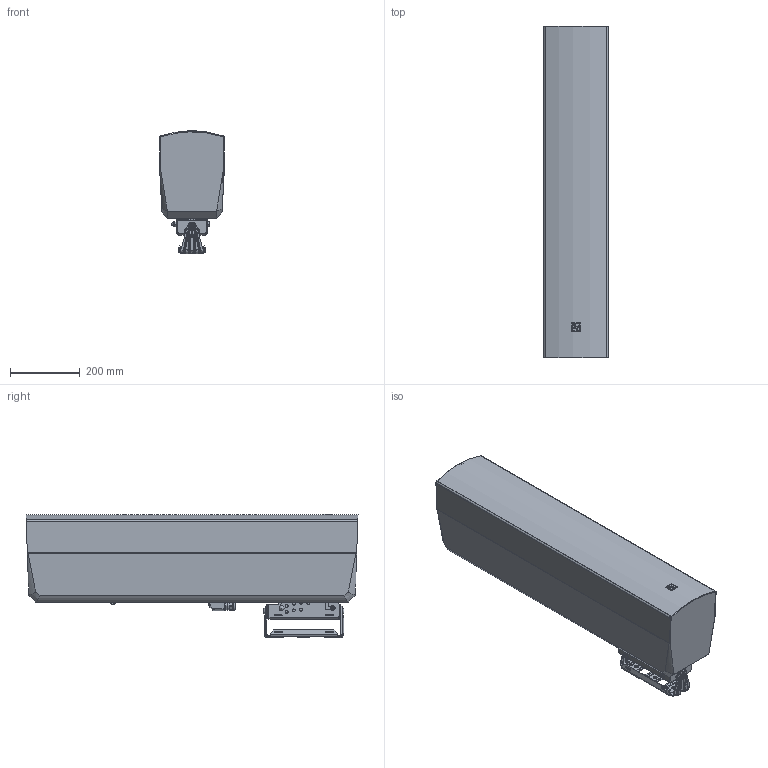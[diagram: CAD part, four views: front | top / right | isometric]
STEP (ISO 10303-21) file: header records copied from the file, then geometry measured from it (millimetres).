
FILE_DESCRIPTION (( 'STEP AP214' ), '1' );
FILE_NAME ('LRC-2100 3D CAD FOR WEBSITE.STEP', '2024-08-30T01:11:42', ( '' ), ( '' ), 'SwSTEP 2.0', 'SolidWorks 2022', '' );
FILE_SCHEMA (( 'AUTOMOTIVE_DESIGN' ));
Length unit declared in the file: millimetre
Products named in the file (21): 8X13X2.5 WATER- AND STEAM-RESISTANT HIGH-TEMPERATURE EPDM O-RING_1289N349; M8X95 18-8 Stainless Steel Socket Head Screw_91292A523; LRC-2100 ENCLOSURE; M8 NYLON PLASTIC WASHER_95610A370; PUSH-IN RIVETS WITH RIBBED SHANK FOR 8MM HOLE SIZE_90221A607; M8 18-8 Stainless Steel Cap Nylon Lock Nut_94000A039; LRC-2100 GRILLE SIMPLIFIED; LRC-2100 BRACKET BASE PLATE; M6X16_BUTTON HEAD 5MM HEX DRIVE SCREW_92095A238; LRC-2100 TILT BRACKET; LRC-2100 BRACKET HINGE PIN; LRC-2100 WIDE NARROW SWITCH; LRC-2100 EV LOGO; LRC-2100 3D CAD FOR WEBSITE; F01U427515_90269A256; F01U424801_SIMPLIFIED; 90221A607_PUSH-IN RIVETS WITH RIBBED SHANK_90221A607; M8X25_CORROSION-RESISTANT FULLY THREADED ROD END BOLT_2434K883; PG13.5 PLASTIC SUBMERSIBLE CORD GRIP CAD FOR WEB_INSTALLED; LRC-2100 PAN BRACKET; M10X18 18-8 Stainless Steel Flanged Button Head Screw_97654A670
Assembly tree (31 placements, depth 2):
  LRC-2100 3D CAD FOR WEBSITE
    LRC-2100 ENCLOSURE
    LRC-2100 GRILLE SIMPLIFIED
    LRC-2100 EV LOGO
    PUSH-IN RIVETS WITH RIBBED SHANK FOR 8MM HOLE SIZE_90221A607  x2
    90221A607_PUSH-IN RIVETS WITH RIBBED SHANK_90221A607  x4
    LRC-2100 WIDE NARROW SWITCH
    LRC-2100 TILT BRACKET
    M6X16_BUTTON HEAD 5MM HEX DRIVE SCREW_92095A238  x4
    M8 NYLON PLASTIC WASHER_95610A370  x2
    LRC-2100 BRACKET HINGE PIN
    F01U427515_90269A256  x2
    M8X25_CORROSION-RESISTANT FULLY THREADED ROD END BOLT_2434K883
    8X13X2.5 WATER- AND STEAM-RESISTANT HIGH-TEMPERATURE EPDM O-RING_1289N349
    LRC-2100 BRACKET BASE PLATE
    LRC-2100 PAN BRACKET
    M10X18 18-8 Stainless Steel Flanged Button Head Screw_97654A670  x2
    M8X95 18-8 Stainless Steel Socket Head Screw_91292A523
    M8 18-8 Stainless Steel Cap Nylon Lock Nut_94000A039
    F01U424801_SIMPLIFIED
    PG13.5 PLASTIC SUBMERSIBLE CORD GRIP CAD FOR WEB_INSTALLED  x2
Bounding box: 185 x 949.99 x 353.65 mm (x, y, z)
Volume: 3362135.7 mm3; surface area: 1984052.3 mm2
Topology: 39 solids, 39 shells, 2791 faces, 7120 edges, 4561 vertices
Faces by surface type: plane 1408, cylinder 803, bspline 277, cone 193, torus 94, sphere 16
Full cylindrical faces by diameter (mm): 3.4 x2, 4.701 x2, 5 x2, 5.41 x4, 6 x8, 6.1 x2, 6.5 x4, 7 x2, 7.594 x2, 8 x24, 8.4 x28, 8.5 x2, 9 x2, 10.5 x6, 11 x8, 12 x1, 12.6 x4, 12.622 x1, 12.7 x4, 13 x3, 14 x8, 15 x2, 15.348 x2, 17.192 x6, 18.789 x2, 20 x3, 20.3 x2, 20.385 x4, 20.4 x2, 20.5 x1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
Entity records: 82192 total; most frequent: CARTESIAN_POINT 33608, ORIENTED_EDGE 9792, DIRECTION 8686, EDGE_CURVE 4896, VERTEX_POINT 3187, AXIS2_PLACEMENT_3D 3023, LINE 2640, VECTOR 2640
